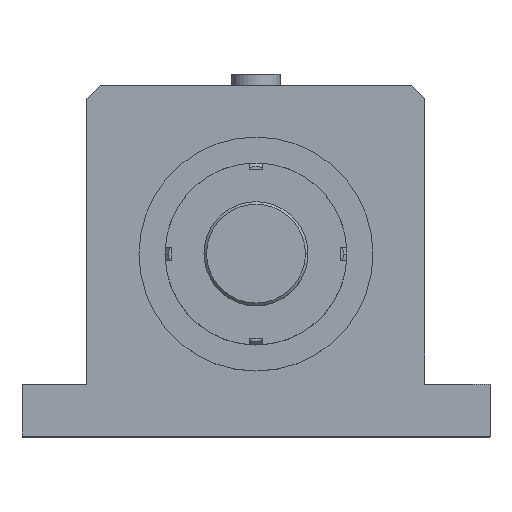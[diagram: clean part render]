
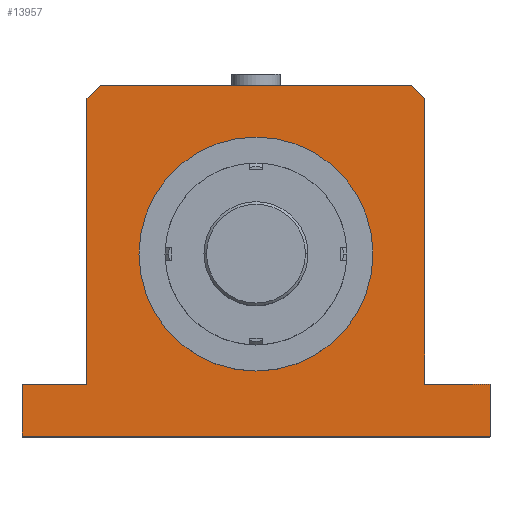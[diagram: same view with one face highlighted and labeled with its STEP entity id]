
A CAD part, top view. The second image highlights one B-rep face of the part: STEP entity #13957.
In plain terms, the highlighted planar face has unit normal (0, 0, 1) as drawn and (1, 0, 0) by its records, which use the part's own axes.
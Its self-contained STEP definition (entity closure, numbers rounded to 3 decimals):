
#203 = EDGE_CURVE ( 'NONE', #20067, #2586, #21547, .T. ) ;
#286 = ORIENTED_EDGE ( 'NONE', *, *, #16715, .T. ) ;
#438 = LINE ( 'NONE', #1220, #23212 ) ;
#446 = LINE ( 'NONE', #14405, #19759 ) ;
#614 = ORIENTED_EDGE ( 'NONE', *, *, #14110, .T. ) ;
#1220 = CARTESIAN_POINT ( 'NONE',  ( 587., -140., -180. ) ) ;
#1541 = DIRECTION ( 'NONE',  ( 1., 0., 0. ) ) ;
#1771 = CARTESIAN_POINT ( 'NONE',  ( 587., 119.769, 130. ) ) ;
#1890 = EDGE_CURVE ( 'NONE', #7853, #13233, #438, .T. ) ;
#2006 = DIRECTION ( 'NONE',  ( 0., 0.707, 0.707 ) ) ;
#2051 = CARTESIAN_POINT ( 'NONE',  ( 587., -140., 180. ) ) ;
#2218 = CARTESIAN_POINT ( 'NONE',  ( 587., -100., 180. ) ) ;
#2462 = ORIENTED_EDGE ( 'NONE', *, *, #23393, .T. ) ;
#2586 = VERTEX_POINT ( 'NONE', #20215 ) ;
#2591 = LINE ( 'NONE', #4295, #15755 ) ;
#2871 = LINE ( 'NONE', #1771, #22110 ) ;
#2991 = CARTESIAN_POINT ( 'NONE',  ( 587., -100., -130. ) ) ;
#3134 = CARTESIAN_POINT ( 'NONE',  ( 587., -100., 180. ) ) ;
#3309 = CARTESIAN_POINT ( 'NONE',  ( 587., -140., 180. ) ) ;
#3341 = DIRECTION ( 'NONE',  ( 0., 0., -1. ) ) ;
#3622 = DIRECTION ( 'NONE',  ( 0., 0., 1. ) ) ;
#3632 = DIRECTION ( 'NONE',  ( 0., -0.707, 0.707 ) ) ;
#3953 = VERTEX_POINT ( 'NONE', #3309 ) ;
#4295 = CARTESIAN_POINT ( 'NONE',  ( 587., 130., 119.769 ) ) ;
#4454 = DIRECTION ( 'NONE',  ( 0., 0., 1. ) ) ;
#4573 = VERTEX_POINT ( 'NONE', #5081 ) ;
#4579 = LINE ( 'NONE', #2051, #12778 ) ;
#4815 = VECTOR ( 'NONE', #23691, 1000. ) ;
#5081 = CARTESIAN_POINT ( 'NONE',  ( 587., 130., 119.769 ) ) ;
#5213 = DIRECTION ( 'NONE',  ( 0., 0., 1. ) ) ;
#5755 = CARTESIAN_POINT ( 'NONE',  ( 587., -100., -180. ) ) ;
#6014 = DIRECTION ( 'NONE',  ( 0., -1., 0. ) ) ;
#6069 = LINE ( 'NONE', #7718, #19221 ) ;
#6325 = ORIENTED_EDGE ( 'NONE', *, *, #22504, .F. ) ;
#6833 = CARTESIAN_POINT ( 'NONE',  ( 587., 119.769, -130. ) ) ;
#6843 = VERTEX_POINT ( 'NONE', #6833 ) ;
#6951 = DIRECTION ( 'NONE',  ( 1., 0., 0. ) ) ;
#6987 = EDGE_CURVE ( 'NONE', #2586, #16126, #14338, .T. ) ;
#7316 = DIRECTION ( 'NONE',  ( 0., 0., -1. ) ) ;
#7535 = ORIENTED_EDGE ( 'NONE', *, *, #15619, .T. ) ;
#7683 = DIRECTION ( 'NONE',  ( 0., 0., -1. ) ) ;
#7718 = CARTESIAN_POINT ( 'NONE',  ( 587., 130., -119.769 ) ) ;
#7853 = VERTEX_POINT ( 'NONE', #23484 ) ;
#7872 = EDGE_CURVE ( 'NONE', #13233, #23408, #446, .T. ) ;
#8386 = EDGE_CURVE ( 'NONE', #23408, #6843, #18561, .T. ) ;
#8664 = AXIS2_PLACEMENT_3D ( 'NONE', #18301, #6951, #16426 ) ;
#9469 = VERTEX_POINT ( 'NONE', #11594 ) ;
#10924 = AXIS2_PLACEMENT_3D ( 'NONE', #12849, #1541, #3341 ) ;
#11141 = DIRECTION ( 'NONE',  ( 0., -1., 0. ) ) ;
#11232 = CIRCLE ( 'NONE', #8664, 90. ) ;
#11594 = CARTESIAN_POINT ( 'NONE',  ( 587., 130., -119.769 ) ) ;
#12194 = EDGE_CURVE ( 'NONE', #16126, #3953, #18159, .T. ) ;
#12609 = VECTOR ( 'NONE', #11141, 1000. ) ;
#12778 = VECTOR ( 'NONE', #7683, 1000. ) ;
#12849 = CARTESIAN_POINT ( 'NONE',  ( 587., 0., 0. ) ) ;
#12875 = ORIENTED_EDGE ( 'NONE', *, *, #7872, .T. ) ;
#13233 = VERTEX_POINT ( 'NONE', #5755 ) ;
#13866 = ORIENTED_EDGE ( 'NONE', *, *, #6987, .T. ) ;
#13957 = ADVANCED_FACE ( 'NONE', ( #18067, #21229 ), #22059, .T. ) ;
#14110 = EDGE_CURVE ( 'NONE', #6843, #9469, #6069, .T. ) ;
#14338 = LINE ( 'NONE', #24075, #16067 ) ;
#14405 = CARTESIAN_POINT ( 'NONE',  ( 587., -100., -180. ) ) ;
#14636 = EDGE_LOOP ( 'NONE', ( #20767, #6325 ) ) ;
#15000 = EDGE_LOOP ( 'NONE', ( #21836, #13866, #18830, #286, #17774, #12875, #21758, #614, #2462, #7535 ) ) ;
#15456 = CIRCLE ( 'NONE', #10924, 90. ) ;
#15574 = CARTESIAN_POINT ( 'NONE',  ( 587., 0., 90. ) ) ;
#15619 = EDGE_CURVE ( 'NONE', #4573, #20067, #2871, .T. ) ;
#15755 = VECTOR ( 'NONE', #4454, 1000. ) ;
#15770 = VERTEX_POINT ( 'NONE', #15574 ) ;
#16067 = VECTOR ( 'NONE', #3622, 1000. ) ;
#16126 = VERTEX_POINT ( 'NONE', #2218 ) ;
#16396 = CARTESIAN_POINT ( 'NONE',  ( 587., 119.769, -130. ) ) ;
#16426 = DIRECTION ( 'NONE',  ( 0., 0., -1. ) ) ;
#16715 = EDGE_CURVE ( 'NONE', #3953, #7853, #4579, .T. ) ;
#17774 = ORIENTED_EDGE ( 'NONE', *, *, #1890, .T. ) ;
#17785 = VECTOR ( 'NONE', #6014, 1000. ) ;
#18067 = FACE_OUTER_BOUND ( 'NONE', #15000, .T. ) ;
#18159 = LINE ( 'NONE', #3134, #12609 ) ;
#18274 = CARTESIAN_POINT ( 'NONE',  ( 587., 0., -165. ) ) ;
#18301 = CARTESIAN_POINT ( 'NONE',  ( 587., 0., 0. ) ) ;
#18561 = LINE ( 'NONE', #16396, #4815 ) ;
#18693 = EDGE_CURVE ( 'NONE', #22316, #15770, #11232, .T. ) ;
#18747 = AXIS2_PLACEMENT_3D ( 'NONE', #18274, #21989, #7316 ) ;
#18830 = ORIENTED_EDGE ( 'NONE', *, *, #12194, .T. ) ;
#19012 = CARTESIAN_POINT ( 'NONE',  ( 587., -100., 130. ) ) ;
#19221 = VECTOR ( 'NONE', #2006, 1000. ) ;
#19297 = CARTESIAN_POINT ( 'NONE',  ( 587., 0., -90. ) ) ;
#19759 = VECTOR ( 'NONE', #5213, 1000. ) ;
#20067 = VERTEX_POINT ( 'NONE', #22248 ) ;
#20215 = CARTESIAN_POINT ( 'NONE',  ( 587., -100., 130. ) ) ;
#20767 = ORIENTED_EDGE ( 'NONE', *, *, #18693, .F. ) ;
#21229 = FACE_BOUND ( 'NONE', #14636, .T. ) ;
#21547 = LINE ( 'NONE', #19012, #17785 ) ;
#21758 = ORIENTED_EDGE ( 'NONE', *, *, #8386, .T. ) ;
#21836 = ORIENTED_EDGE ( 'NONE', *, *, #203, .T. ) ;
#21989 = DIRECTION ( 'NONE',  ( 1., 0., 0. ) ) ;
#22059 = PLANE ( 'NONE',  #18747 ) ;
#22110 = VECTOR ( 'NONE', #3632, 1000. ) ;
#22248 = CARTESIAN_POINT ( 'NONE',  ( 587., 119.769, 130. ) ) ;
#22316 = VERTEX_POINT ( 'NONE', #19297 ) ;
#22504 = EDGE_CURVE ( 'NONE', #15770, #22316, #15456, .T. ) ;
#23212 = VECTOR ( 'NONE', #23578, 1000. ) ;
#23393 = EDGE_CURVE ( 'NONE', #9469, #4573, #2591, .T. ) ;
#23408 = VERTEX_POINT ( 'NONE', #2991 ) ;
#23484 = CARTESIAN_POINT ( 'NONE',  ( 587., -140., -180. ) ) ;
#23578 = DIRECTION ( 'NONE',  ( 0., 1., 0. ) ) ;
#23691 = DIRECTION ( 'NONE',  ( 0., 1., 0. ) ) ;
#24075 = CARTESIAN_POINT ( 'NONE',  ( 587., -100., 124. ) ) ;
